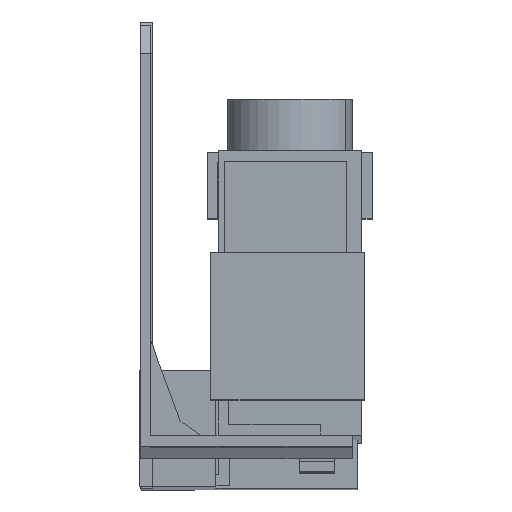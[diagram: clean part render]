
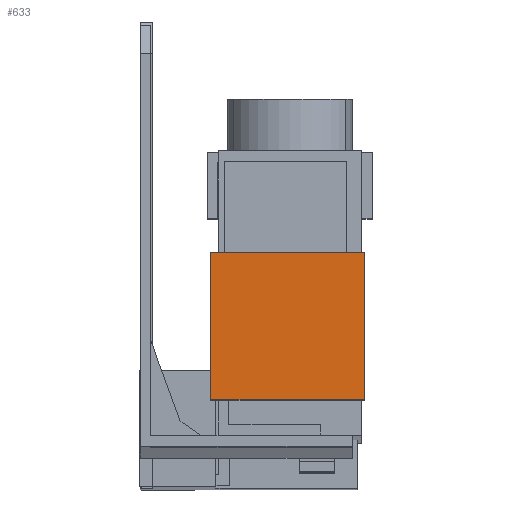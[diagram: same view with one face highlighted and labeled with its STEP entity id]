
A CAD part, front view. The second image highlights one B-rep face of the part: STEP entity #633.
In plain terms, the highlighted planar face has unit normal (0, -1, 0.003).
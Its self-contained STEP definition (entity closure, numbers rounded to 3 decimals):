
#349 = EDGE_CURVE ( 'NONE', #7461, #7460, #2071, .T. ) ;
#380 = EDGE_CURVE ( 'NONE', #7456, #7461, #2121, .T. ) ;
#492 = EDGE_CURVE ( 'NONE', #7460, #7446, #2257, .T. ) ;
#501 = EDGE_CURVE ( 'NONE', #7456, #7446, #2339, .T. ) ;
#633 = ADVANCED_FACE ( 'NONE', ( #2545 ), #4863, .T. ) ;
#1166 = EDGE_LOOP ( 'NONE', ( #5449, #5450, #5451, #5452 ) ) ;
#2071 = LINE ( 'NONE', #6424, #2072 ) ;
#2072 = VECTOR ( 'NONE', #6425, 1000. ) ;
#2121 = LINE ( 'NONE', #6727, #2122 ) ;
#2122 = VECTOR ( 'NONE', #6728, 1000. ) ;
#2257 = LINE ( 'NONE', #4580, #2289 ) ;
#2289 = VECTOR ( 'NONE', #4579, 1000. ) ;
#2339 = LINE ( 'NONE', #4562, #2340 ) ;
#2340 = VECTOR ( 'NONE', #4390, 1000. ) ;
#2545 = FACE_OUTER_BOUND ( 'NONE', #1166, .T. ) ;
#3985 = CARTESIAN_POINT ( 'NONE',  ( 31.95, -31.509, -40.315 ) ) ;
#3995 = CARTESIAN_POINT ( 'NONE',  ( 10.05, -31.509, -40.315 ) ) ;
#3999 = CARTESIAN_POINT ( 'NONE',  ( 31.95, -31.452, -19.316 ) ) ;
#4000 = CARTESIAN_POINT ( 'NONE',  ( 10.05, -31.452, -19.316 ) ) ;
#4390 = DIRECTION ( 'NONE',  ( 1., 0., 0. ) ) ;
#4528 = DIRECTION ( 'NONE',  ( -1., 0., 0. ) ) ;
#4529 = DIRECTION ( 'NONE',  ( 0., -1., 0.003 ) ) ;
#4562 = CARTESIAN_POINT ( 'NONE',  ( 9.3, -31.509, -40.315 ) ) ;
#4579 = DIRECTION ( 'NONE',  ( 0., -0.003, -1. ) ) ;
#4580 = CARTESIAN_POINT ( 'NONE',  ( 31.95, -31.452, -19.316 ) ) ;
#4863 = PLANE ( 'NONE',  #5710 ) ;
#4874 = CARTESIAN_POINT ( 'NONE',  ( 9.3, -31.509, -40.315 ) ) ;
#5449 = ORIENTED_EDGE ( 'NONE', *, *, #349, .F. ) ;
#5450 = ORIENTED_EDGE ( 'NONE', *, *, #380, .F. ) ;
#5451 = ORIENTED_EDGE ( 'NONE', *, *, #501, .T. ) ;
#5452 = ORIENTED_EDGE ( 'NONE', *, *, #492, .F. ) ;
#5710 = AXIS2_PLACEMENT_3D ( 'NONE', #4874, #4529, #4528 ) ;
#6424 = CARTESIAN_POINT ( 'NONE',  ( 9.3, -31.452, -19.316 ) ) ;
#6425 = DIRECTION ( 'NONE',  ( 1., 0., 0. ) ) ;
#6727 = CARTESIAN_POINT ( 'NONE',  ( 10.05, -31.509, -40.315 ) ) ;
#6728 = DIRECTION ( 'NONE',  ( 0., 0.003, 1. ) ) ;
#7446 = VERTEX_POINT ( 'NONE', #3985 ) ;
#7456 = VERTEX_POINT ( 'NONE', #3995 ) ;
#7460 = VERTEX_POINT ( 'NONE', #3999 ) ;
#7461 = VERTEX_POINT ( 'NONE', #4000 ) ;
